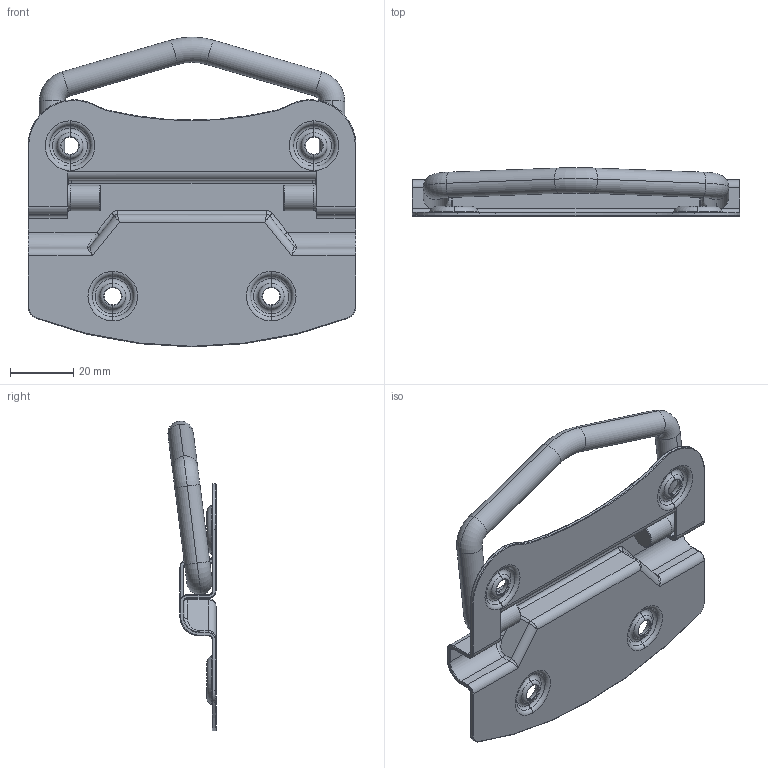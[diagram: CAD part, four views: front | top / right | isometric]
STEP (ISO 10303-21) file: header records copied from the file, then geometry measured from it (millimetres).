
FILE_DESCRIPTION (( 'STEP AP214' ), '1' );
FILE_NAME ('HDT(S)-3104.STEP', '2018-11-29T08:24:21', ( '' ), ( '' ), 'SwSTEP 2.0', 'SolidWorks 2010', '' );
FILE_SCHEMA (( 'AUTOMOTIVE_DESIGN' ));
Length unit declared in the file: millimetre
Products named in the file (3): 基座; HDT(S)-3104; 手柄
Assembly tree (2 placements, depth 2):
  HDT(S)-3104
    手柄
    基座
Bounding box: 103.5 x 15.16 x 97.77 mm (x, y, z)
Volume: 20696.8 mm3; surface area: 23759.1 mm2
Topology: 2 solids, 2 shells, 292 faces, 678 edges, 388 vertices
Faces by surface type: torus 136, cylinder 108, plane 38, bspline 10
Entity records: 9640 total; most frequent: CARTESIAN_POINT 2709, DIRECTION 1650, ORIENTED_EDGE 1344, AXIS2_PLACEMENT_3D 727, EDGE_CURVE 672, CIRCLE 440, VERTEX_POINT 388, EDGE_LOOP 308
